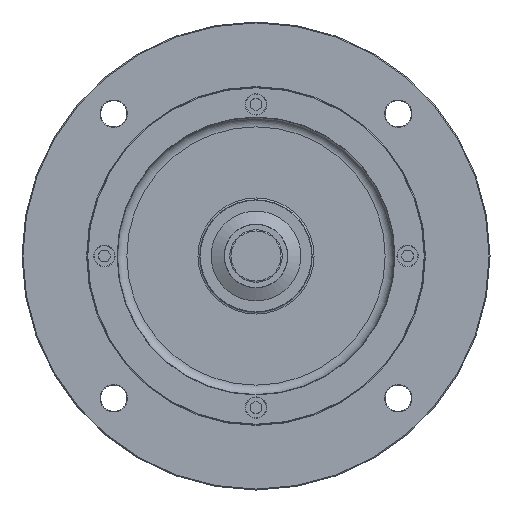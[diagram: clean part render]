
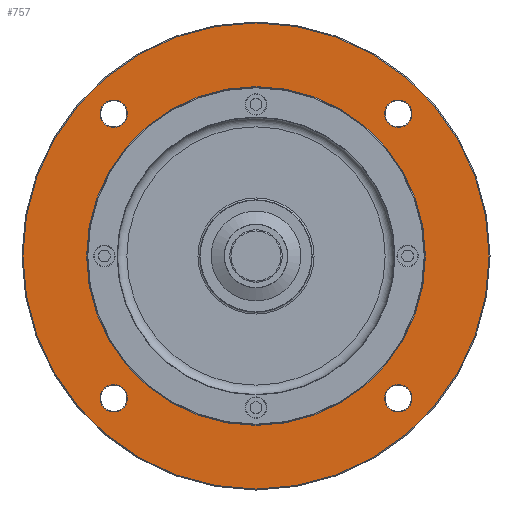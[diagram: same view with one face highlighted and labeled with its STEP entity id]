
A CAD part, front view. The second image highlights one B-rep face of the part: STEP entity #757.
In plain terms, the highlighted planar face has unit normal (0, -1, 0).
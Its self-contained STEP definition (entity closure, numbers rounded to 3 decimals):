
#757=ADVANCED_FACE('',(#1325,#1326,#1327,#1328,#1329,#1127),#1050,.T.);
#1050=PLANE('',#4317);
#1127=FACE_OUTER_BOUND('',#1661,.T.);
#1325=FACE_BOUND('',#1656,.T.);
#1326=FACE_BOUND('',#1657,.T.);
#1327=FACE_BOUND('',#1658,.T.);
#1328=FACE_BOUND('',#1659,.T.);
#1329=FACE_BOUND('',#1660,.T.);
#1656=EDGE_LOOP('',(#2178));
#1657=EDGE_LOOP('',(#2179));
#1658=EDGE_LOOP('',(#2180));
#1659=EDGE_LOOP('',(#2181));
#1660=EDGE_LOOP('',(#2182));
#1661=EDGE_LOOP('',(#2183));
#2178=ORIENTED_EDGE('',*,*,#3492,.T.);
#2179=ORIENTED_EDGE('',*,*,#3493,.T.);
#2180=ORIENTED_EDGE('',*,*,#3494,.T.);
#2181=ORIENTED_EDGE('',*,*,#3495,.T.);
#2182=ORIENTED_EDGE('',*,*,#3496,.T.);
#2183=ORIENTED_EDGE('',*,*,#3497,.T.);
#3110=VERTEX_POINT('',#6397);
#3111=VERTEX_POINT('',#6399);
#3112=VERTEX_POINT('',#6401);
#3113=VERTEX_POINT('',#6403);
#3114=VERTEX_POINT('',#6405);
#3115=VERTEX_POINT('',#6407);
#3492=EDGE_CURVE('',#3110,#3110,#3958,.T.);
#3493=EDGE_CURVE('',#3111,#3111,#3959,.T.);
#3494=EDGE_CURVE('',#3112,#3112,#3960,.T.);
#3495=EDGE_CURVE('',#3113,#3113,#3961,.T.);
#3496=EDGE_CURVE('',#3114,#3114,#3962,.T.);
#3497=EDGE_CURVE('',#3115,#3115,#3963,.T.);
#3958=CIRCLE('',#4311,90.5);
#3959=CIRCLE('',#4312,7.3);
#3960=CIRCLE('',#4313,7.3);
#3961=CIRCLE('',#4314,7.3);
#3962=CIRCLE('',#4315,7.3);
#3963=CIRCLE('',#4316,124.5);
#4311=AXIS2_PLACEMENT_3D('',#6396,#4974,#4975);
#4312=AXIS2_PLACEMENT_3D('',#6398,#4976,#4977);
#4313=AXIS2_PLACEMENT_3D('',#6400,#4978,#4979);
#4314=AXIS2_PLACEMENT_3D('',#6402,#4980,#4981);
#4315=AXIS2_PLACEMENT_3D('',#6404,#4982,#4983);
#4316=AXIS2_PLACEMENT_3D('',#6406,#4984,#4985);
#4317=AXIS2_PLACEMENT_3D('',#6408,#4986,#4987);
#4974=DIRECTION('',(0.,1.,0.));
#4975=DIRECTION('',(0.,0.,-1.));
#4976=DIRECTION('',(0.,1.,0.));
#4977=DIRECTION('',(0.,0.,-1.));
#4978=DIRECTION('',(0.,1.,0.));
#4979=DIRECTION('',(0.,0.,-1.));
#4980=DIRECTION('',(0.,1.,0.));
#4981=DIRECTION('',(0.,0.,-1.));
#4982=DIRECTION('',(0.,1.,0.));
#4983=DIRECTION('',(0.,0.,-1.));
#4984=DIRECTION('',(0.,-1.,0.));
#4985=DIRECTION('',(0.,0.,-1.));
#4986=DIRECTION('',(0.,-1.,0.));
#4987=DIRECTION('',(0.,0.,-1.));
#6396=CARTESIAN_POINT('',(0.,0.,0.));
#6397=CARTESIAN_POINT('',(0.,0.,-90.5));
#6398=CARTESIAN_POINT('',(76.014,0.,76.014));
#6399=CARTESIAN_POINT('',(76.014,0.,68.714));
#6400=CARTESIAN_POINT('',(76.014,0.,-76.014));
#6401=CARTESIAN_POINT('',(76.014,0.,-83.314));
#6402=CARTESIAN_POINT('',(-76.014,0.,-76.014));
#6403=CARTESIAN_POINT('',(-76.014,0.,-83.314));
#6404=CARTESIAN_POINT('',(-76.014,0.,76.014));
#6405=CARTESIAN_POINT('',(-76.014,0.,68.714));
#6406=CARTESIAN_POINT('',(0.,0.,0.));
#6407=CARTESIAN_POINT('',(0.,0.,-124.5));
#6408=CARTESIAN_POINT('',(0.,0.,0.));
